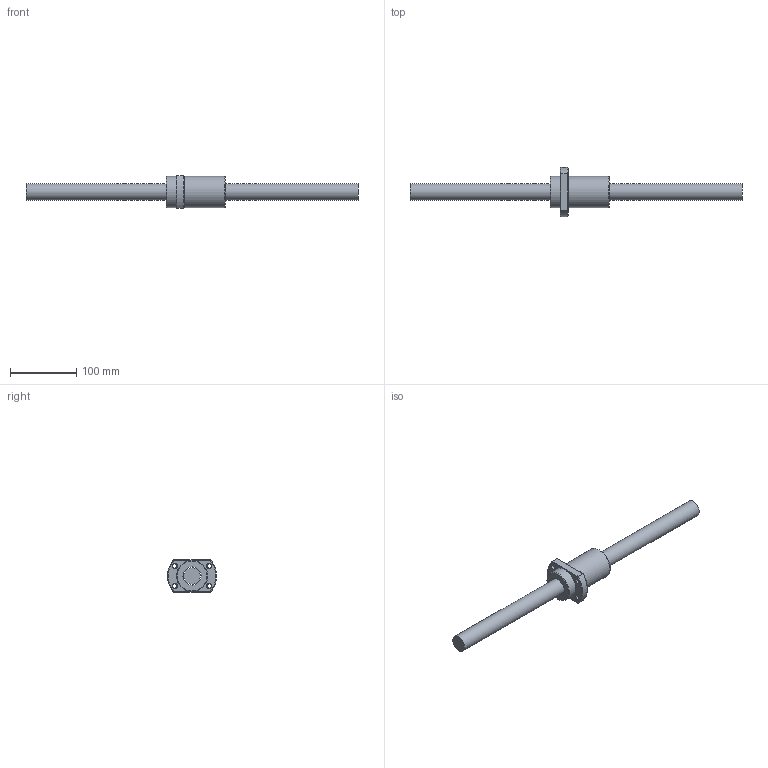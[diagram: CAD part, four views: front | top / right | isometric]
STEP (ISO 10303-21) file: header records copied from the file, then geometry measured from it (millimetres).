
FILE_DESCRIPTION (( 'STEP AP203' ), '1' );
FILE_NAME ('SFY02525-5.6.step', '2024-05-21T08:56:58', ( '' ), ( '' ), 'SwSTEP 2.0', 'SolidWorks 2022', '' );
FILE_SCHEMA (( 'CONFIG_CONTROL_DESIGN' ));
Length unit declared in the file: millimetre
Products named in the file (1): SFY02525-5.6
Bounding box: 500 x 73.88 x 49 mm (x, y, z)
Volume: 364810.5 mm3; surface area: 68040.5 mm2
Topology: 2 solids, 2 shells, 51 faces, 124 edges, 79 vertices
Faces by surface type: cylinder 18, plane 13, cone 9, torus 6, bspline 5
Full cylindrical faces by diameter (mm): 3 x1, 5 x6, 6.6 x4, 25 x1, 27.3 x1, 47 x2
Entity records: 3010 total; most frequent: CARTESIAN_POINT 2049, DIRECTION 170, ORIENTED_EDGE 156, EDGE_LOOP 80, EDGE_CURVE 78, AXIS2_PLACEMENT_3D 77, VERTEX_POINT 62, FACE_OUTER_BOUND 57
